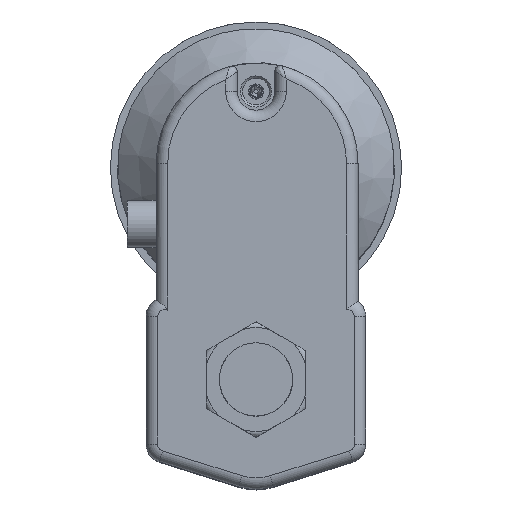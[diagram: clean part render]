
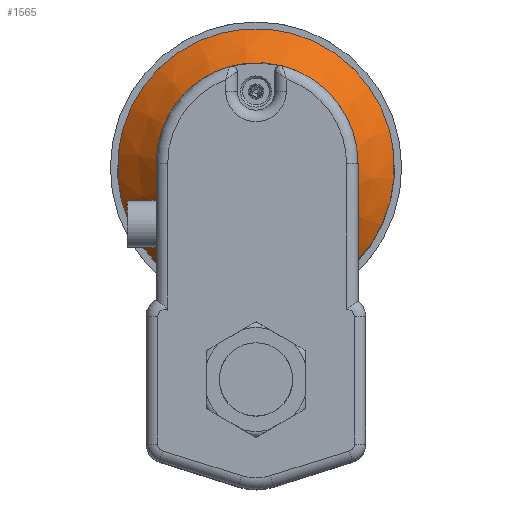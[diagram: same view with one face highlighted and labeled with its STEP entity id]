
A CAD part, top view. The second image highlights one B-rep face of the part: STEP entity #1565.
In plain terms, the highlighted conical face has half-angle 45 degrees and reference radius 48 mm.
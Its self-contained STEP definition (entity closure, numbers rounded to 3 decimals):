
#23 = CARTESIAN_POINT ( 'NONE',  ( 0., 73.9, 67.5 ) ) ;
#269 = FACE_OUTER_BOUND ( 'NONE', #5246, .T. ) ;
#275 = FACE_BOUND ( 'NONE', #5235, .T. ) ;
#276 = CONICAL_SURFACE ( 'NONE', #442, 48., 0.785 ) ;
#442 = AXIS2_PLACEMENT_3D ( 'NONE', #4318, #4319, #4308 ) ;
#823 = EDGE_CURVE ( 'NONE', #1617, #1656, #5652, .T. ) ;
#824 = EDGE_CURVE ( 'NONE', #1656, #1617, #1392, .T. ) ;
#826 = EDGE_CURVE ( 'NONE', #4727, #4727, #5653, .T. ) ;
#1036 = AXIS2_PLACEMENT_3D ( 'NONE', #3338, #3348, #3349 ) ;
#1041 = AXIS2_PLACEMENT_3D ( 'NONE', #23, #3385, #3386 ) ;
#1392 = B_SPLINE_CURVE_WITH_KNOTS ( 'NONE', 3,
 ( #3347, #3357, #3358, #3359, #3360, #3361, #3362, #3363, #3364, #3365, #3366, #3367, #3368, #3369, #3370, #3371, #3372, #3373, #3374, #3375, #3376, #3377, #3378, #3379, #3380, #3381 ),
 .UNSPECIFIED., .F., .F.,
 ( 4, 2, 2, 2, 2, 2, 2, 2, 2, 2, 2, 2, 4 ),
 ( 0., 0.004, 0.007, 0.015, 0.018, 0.022, 0.026, 0.029, 0.037, 0.04, 0.044, 0.051, 0.059 ),
 .UNSPECIFIED. ) ;
#1565 = ADVANCED_FACE ( 'NONE', ( #275, #269 ), #276, .T. ) ;
#1617 = VERTEX_POINT ( 'NONE', #4483 ) ;
#1656 = VERTEX_POINT ( 'NONE', #4522 ) ;
#3338 = CARTESIAN_POINT ( 'NONE',  ( 0., 73.9, 53.5 ) ) ;
#3347 = CARTESIAN_POINT ( 'NONE',  ( -27.908, 34.847, 53.5 ) ) ;
#3348 = DIRECTION ( 'NONE',  ( 0., 0., 1. ) ) ;
#3349 = DIRECTION ( 'NONE',  ( 0., -1., 0. ) ) ;
#3357 = CARTESIAN_POINT ( 'NONE',  ( -26.826, 34.768, 54.065 ) ) ;
#3358 = CARTESIAN_POINT ( 'NONE',  ( -25.733, 34.688, 54.609 ) ) ;
#3359 = CARTESIAN_POINT ( 'NONE',  ( -23.531, 34.53, 55.644 ) ) ;
#3360 = CARTESIAN_POINT ( 'NONE',  ( -22.421, 34.452, 56.137 ) ) ;
#3361 = CARTESIAN_POINT ( 'NONE',  ( -19.06, 34.223, 57.53 ) ) ;
#3362 = CARTESIAN_POINT ( 'NONE',  ( -16.779, 34.077, 58.344 ) ) ;
#3363 = CARTESIAN_POINT ( 'NONE',  ( -13.28, 33.887, 59.356 ) ) ;
#3364 = CARTESIAN_POINT ( 'NONE',  ( -12.101, 33.829, 59.657 ) ) ;
#3365 = CARTESIAN_POINT ( 'NONE',  ( -9.715, 33.725, 60.183 ) ) ;
#3366 = CARTESIAN_POINT ( 'NONE',  ( -8.505, 33.679, 60.407 ) ) ;
#3367 = CARTESIAN_POINT ( 'NONE',  ( -6.081, 33.605, 60.767 ) ) ;
#3368 = CARTESIAN_POINT ( 'NONE',  ( -4.863, 33.577, 60.903 ) ) ;
#3369 = CARTESIAN_POINT ( 'NONE',  ( -2.415, 33.538, 61.085 ) ) ;
#3370 = CARTESIAN_POINT ( 'NONE',  ( -1.188, 33.529, 61.13 ) ) ;
#3371 = CARTESIAN_POINT ( 'NONE',  ( 2.477, 33.529, 61.127 ) ) ;
#3372 = CARTESIAN_POINT ( 'NONE',  ( 4.908, 33.569, 60.942 ) ) ;
#3373 = CARTESIAN_POINT ( 'NONE',  ( 8.537, 33.68, 60.402 ) ) ;
#3374 = CARTESIAN_POINT ( 'NONE',  ( 9.746, 33.726, 60.177 ) ) ;
#3375 = CARTESIAN_POINT ( 'NONE',  ( 12.13, 33.83, 59.65 ) ) ;
#3376 = CARTESIAN_POINT ( 'NONE',  ( 13.307, 33.888, 59.348 ) ) ;
#3377 = CARTESIAN_POINT ( 'NONE',  ( 16.801, 34.078, 58.337 ) ) ;
#3378 = CARTESIAN_POINT ( 'NONE',  ( 19.078, 34.224, 57.523 ) ) ;
#3379 = CARTESIAN_POINT ( 'NONE',  ( 23.55, 34.529, 55.668 ) ) ;
#3380 = CARTESIAN_POINT ( 'NONE',  ( 25.745, 34.688, 54.629 ) ) ;
#3381 = CARTESIAN_POINT ( 'NONE',  ( 27.908, 34.847, 53.5 ) ) ;
#3385 = DIRECTION ( 'NONE',  ( 0., 0., 1. ) ) ;
#3386 = DIRECTION ( 'NONE',  ( 0., -1., 0. ) ) ;
#4308 = DIRECTION ( 'NONE',  ( 0., 1., 0. ) ) ;
#4318 = CARTESIAN_POINT ( 'NONE',  ( 0., 73.9, 53.5 ) ) ;
#4319 = DIRECTION ( 'NONE',  ( 0., 0., -1. ) ) ;
#4483 = CARTESIAN_POINT ( 'NONE',  ( 27.908, 34.847, 53.5 ) ) ;
#4522 = CARTESIAN_POINT ( 'NONE',  ( -27.908, 34.847, 53.5 ) ) ;
#4727 = VERTEX_POINT ( 'NONE', #4728 ) ;
#4728 = CARTESIAN_POINT ( 'NONE',  ( 0., 39.9, 67.5 ) ) ;
#5114 = ORIENTED_EDGE ( 'NONE', *, *, #826, .F. ) ;
#5115 = ORIENTED_EDGE ( 'NONE', *, *, #823, .T. ) ;
#5116 = ORIENTED_EDGE ( 'NONE', *, *, #824, .T. ) ;
#5235 = EDGE_LOOP ( 'NONE', ( #5114 ) ) ;
#5246 = EDGE_LOOP ( 'NONE', ( #5115, #5116 ) ) ;
#5652 = CIRCLE ( 'NONE', #1036, 48. ) ;
#5653 = CIRCLE ( 'NONE', #1041, 34. ) ;
